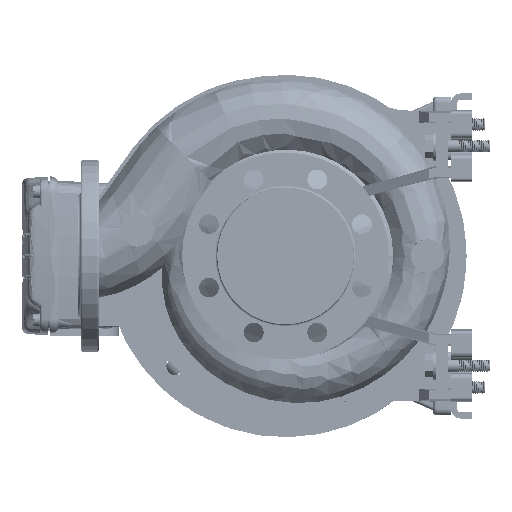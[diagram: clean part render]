
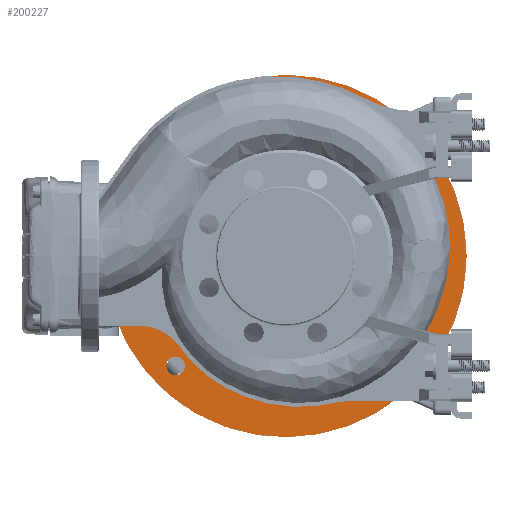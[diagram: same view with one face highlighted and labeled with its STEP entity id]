
A CAD part, left-side view. The second image highlights one B-rep face of the part: STEP entity #200227.
In plain terms, the highlighted planar face has unit normal (-1, 0, 0).
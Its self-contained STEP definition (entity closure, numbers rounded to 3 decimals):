
#4760 = CARTESIAN_POINT ( 'NONE',  ( 224., 0.031, -0.022 ) ) ;
#5004 = AXIS2_PLACEMENT_3D ( 'NONE', #157240, #92504, #206616 ) ;
#5613 = AXIS2_PLACEMENT_3D ( 'NONE', #64536, #214758, #179705 ) ;
#10422 = ORIENTED_EDGE ( 'NONE', *, *, #84478, .T. ) ;
#12768 = CARTESIAN_POINT ( 'NONE',  ( 224., 106.066, 115.067 ) ) ;
#13466 = AXIS2_PLACEMENT_3D ( 'NONE', #92391, #108870, #175747 ) ;
#15430 = EDGE_LOOP ( 'NONE', ( #212224, #97491 ) ) ;
#16487 = VERTEX_POINT ( 'NONE', #149818 ) ;
#16862 = CIRCLE ( 'NONE', #128868, 9. ) ;
#17907 = AXIS2_PLACEMENT_3D ( 'NONE', #24736, #91551, #161724 ) ;
#19178 = FACE_BOUND ( 'NONE', #29435, .T. ) ;
#20010 = CIRCLE ( 'NONE', #47996, 9. ) ;
#21181 = EDGE_CURVE ( 'NONE', #170151, #80973, #111231, .T. ) ;
#21329 = FACE_BOUND ( 'NONE', #90196, .T. ) ;
#22386 = PLANE ( 'NONE',  #23202 ) ;
#23202 = AXIS2_PLACEMENT_3D ( 'NONE', #89194, #203363, #85985 ) ;
#23972 = CARTESIAN_POINT ( 'NONE',  ( 224., 106.066, -97.112 ) ) ;
#24736 = CARTESIAN_POINT ( 'NONE',  ( 224., -106.004, 106.067 ) ) ;
#24990 = DIRECTION ( 'NONE',  ( 1., 0., 0. ) ) ;
#25860 = EDGE_CURVE ( 'NONE', #56917, #62869, #145681, .T. ) ;
#26553 = DIRECTION ( 'NONE',  ( 0., 0., -1. ) ) ;
#29435 = EDGE_LOOP ( 'NONE', ( #40457, #99636 ) ) ;
#32272 = DIRECTION ( 'NONE',  ( 1., 0., 0. ) ) ;
#34716 = CARTESIAN_POINT ( 'NONE',  ( 224., 0.031, -0.022 ) ) ;
#37768 = EDGE_CURVE ( 'NONE', #63405, #170151, #165872, .T. ) ;
#38044 = EDGE_LOOP ( 'NONE', ( #10422, #212792, #175659, #50491 ) ) ;
#38832 = FACE_OUTER_BOUND ( 'NONE', #15430, .T. ) ;
#40093 = EDGE_LOOP ( 'NONE', ( #169547, #126969 ) ) ;
#40457 = ORIENTED_EDGE ( 'NONE', *, *, #121848, .T. ) ;
#42681 = CARTESIAN_POINT ( 'NONE',  ( 224., 0.031, -175.022 ) ) ;
#44432 = VERTEX_POINT ( 'NONE', #148938 ) ;
#44877 = CIRCLE ( 'NONE', #13466, 175. ) ;
#46770 = CIRCLE ( 'NONE', #92255, 127.679 ) ;
#47996 = AXIS2_PLACEMENT_3D ( 'NONE', #109088, #175972, #108009 ) ;
#48809 = DIRECTION ( 'NONE',  ( 1., 0., 0. ) ) ;
#50491 = ORIENTED_EDGE ( 'NONE', *, *, #21181, .T. ) ;
#54393 = CIRCLE ( 'NONE', #5613, 9. ) ;
#56185 = DIRECTION ( 'NONE',  ( 0., 0., -1. ) ) ;
#56917 = VERTEX_POINT ( 'NONE', #42681 ) ;
#62869 = VERTEX_POINT ( 'NONE', #155219 ) ;
#63002 = AXIS2_PLACEMENT_3D ( 'NONE', #175650, #212904, #26553 ) ;
#63405 = VERTEX_POINT ( 'NONE', #68058 ) ;
#64536 = CARTESIAN_POINT ( 'NONE',  ( 224., 106.066, -106.112 ) ) ;
#66351 = DIRECTION ( 'NONE',  ( 0., 0., -1. ) ) ;
#66456 = CIRCLE ( 'NONE', #63002, 9. ) ;
#68058 = CARTESIAN_POINT ( 'NONE',  ( 224., 0.031, 127.657 ) ) ;
#68068 = CARTESIAN_POINT ( 'NONE',  ( 224., -106.004, 106.067 ) ) ;
#68984 = EDGE_CURVE ( 'NONE', #44432, #63405, #46770, .T. ) ;
#69903 = ORIENTED_EDGE ( 'NONE', *, *, #136741, .F. ) ;
#70765 = AXIS2_PLACEMENT_3D ( 'NONE', #4760, #187840, #56185 ) ;
#73156 = EDGE_CURVE ( 'NONE', #16487, #98414, #20010, .T. ) ;
#74711 = AXIS2_PLACEMENT_3D ( 'NONE', #175156, #24990, #158688 ) ;
#74770 = EDGE_LOOP ( 'NONE', ( #85446, #180618 ) ) ;
#76931 = VERTEX_POINT ( 'NONE', #23972 ) ;
#80973 = VERTEX_POINT ( 'NONE', #214164 ) ;
#84478 = EDGE_CURVE ( 'NONE', #80973, #44432, #137275, .T. ) ;
#85446 = ORIENTED_EDGE ( 'NONE', *, *, #128119, .F. ) ;
#85985 = DIRECTION ( 'NONE',  ( 0., 0., 1. ) ) ;
#86983 = DIRECTION ( 'NONE',  ( 0., 0., 1. ) ) ;
#88802 = CARTESIAN_POINT ( 'NONE',  ( 224., -106.004, 115.067 ) ) ;
#89194 = CARTESIAN_POINT ( 'NONE',  ( 224., 175.031, -0.022 ) ) ;
#90196 = EDGE_LOOP ( 'NONE', ( #69903, #105746 ) ) ;
#91551 = DIRECTION ( 'NONE',  ( -1., 0., 0. ) ) ;
#92255 = AXIS2_PLACEMENT_3D ( 'NONE', #165060, #48809, #66351 ) ;
#92391 = CARTESIAN_POINT ( 'NONE',  ( 224., 0.031, -0.022 ) ) ;
#92504 = DIRECTION ( 'NONE',  ( 1., 0., 0. ) ) ;
#92557 = CARTESIAN_POINT ( 'NONE',  ( 224., -106.004, 97.067 ) ) ;
#97491 = ORIENTED_EDGE ( 'NONE', *, *, #204567, .F. ) ;
#98414 = VERTEX_POINT ( 'NONE', #12768 ) ;
#99003 = VERTEX_POINT ( 'NONE', #150535 ) ;
#99636 = ORIENTED_EDGE ( 'NONE', *, *, #103608, .T. ) ;
#102035 = DIRECTION ( 'NONE',  ( -1., 0., 0. ) ) ;
#103190 = VERTEX_POINT ( 'NONE', #110315 ) ;
#103608 = EDGE_CURVE ( 'NONE', #124801, #103190, #173060, .T. ) ;
#104762 = DIRECTION ( 'NONE',  ( 0., 0., -1. ) ) ;
#105746 = ORIENTED_EDGE ( 'NONE', *, *, #192036, .F. ) ;
#108009 = DIRECTION ( 'NONE',  ( 0., 0., -1. ) ) ;
#108870 = DIRECTION ( 'NONE',  ( 1., 0., 0. ) ) ;
#109088 = CARTESIAN_POINT ( 'NONE',  ( 224., 106.066, 106.067 ) ) ;
#110315 = CARTESIAN_POINT ( 'NONE',  ( 224., -106.004, -97.112 ) ) ;
#111231 = CIRCLE ( 'NONE', #216283, 23.5 ) ;
#112399 = CIRCLE ( 'NONE', #17907, 9. ) ;
#116684 = DIRECTION ( 'NONE',  ( 0., 0., 1. ) ) ;
#121848 = EDGE_CURVE ( 'NONE', #103190, #124801, #127044, .T. ) ;
#124801 = VERTEX_POINT ( 'NONE', #160903 ) ;
#126969 = ORIENTED_EDGE ( 'NONE', *, *, #208964, .T. ) ;
#127044 = CIRCLE ( 'NONE', #172607, 9. ) ;
#128119 = EDGE_CURVE ( 'NONE', #76931, #99003, #54393, .T. ) ;
#128868 = AXIS2_PLACEMENT_3D ( 'NONE', #68068, #102035, #216126 ) ;
#136741 = EDGE_CURVE ( 'NONE', #185987, #186872, #112399, .T. ) ;
#137275 = CIRCLE ( 'NONE', #70765, 127.679 ) ;
#143738 = CARTESIAN_POINT ( 'NONE',  ( 224., -126.559, 16.619 ) ) ;
#145500 = DIRECTION ( 'NONE',  ( 1., 0., 0. ) ) ;
#145681 = CIRCLE ( 'NONE', #170265, 175. ) ;
#148728 = CARTESIAN_POINT ( 'NONE',  ( 224., -109.967, -0.022 ) ) ;
#148938 = CARTESIAN_POINT ( 'NONE',  ( 224., 0.031, -127.702 ) ) ;
#149818 = CARTESIAN_POINT ( 'NONE',  ( 224., 106.066, 97.067 ) ) ;
#150535 = CARTESIAN_POINT ( 'NONE',  ( 224., 106.066, -115.112 ) ) ;
#151812 = FACE_BOUND ( 'NONE', #74770, .T. ) ;
#155219 = CARTESIAN_POINT ( 'NONE',  ( 224., 0.031, 174.978 ) ) ;
#157240 = CARTESIAN_POINT ( 'NONE',  ( 224., -106.004, -106.112 ) ) ;
#158688 = DIRECTION ( 'NONE',  ( 0., 0., -1. ) ) ;
#160903 = CARTESIAN_POINT ( 'NONE',  ( 224., -106.004, -115.112 ) ) ;
#161724 = DIRECTION ( 'NONE',  ( 0., 0., -1. ) ) ;
#161975 = DIRECTION ( 'NONE',  ( 0., 0., 1. ) ) ;
#165060 = CARTESIAN_POINT ( 'NONE',  ( 224., 0.031, -0.022 ) ) ;
#165872 = CIRCLE ( 'NONE', #74711, 127.679 ) ;
#167150 = CARTESIAN_POINT ( 'NONE',  ( 224., 106.066, -106.112 ) ) ;
#168304 = FACE_BOUND ( 'NONE', #38044, .T. ) ;
#168465 = DIRECTION ( 'NONE',  ( 1., 0., 0. ) ) ;
#169547 = ORIENTED_EDGE ( 'NONE', *, *, #73156, .T. ) ;
#170151 = VERTEX_POINT ( 'NONE', #143738 ) ;
#170265 = AXIS2_PLACEMENT_3D ( 'NONE', #34716, #168465, #104762 ) ;
#172607 = AXIS2_PLACEMENT_3D ( 'NONE', #186787, #32272, #86983 ) ;
#173060 = CIRCLE ( 'NONE', #5004, 9. ) ;
#175156 = CARTESIAN_POINT ( 'NONE',  ( 224., 0.031, -0.022 ) ) ;
#175650 = CARTESIAN_POINT ( 'NONE',  ( 224., 106.066, 106.067 ) ) ;
#175659 = ORIENTED_EDGE ( 'NONE', *, *, #37768, .T. ) ;
#175747 = DIRECTION ( 'NONE',  ( 0., 0., -1. ) ) ;
#175972 = DIRECTION ( 'NONE',  ( 1., 0., 0. ) ) ;
#179705 = DIRECTION ( 'NONE',  ( 0., 0., 1. ) ) ;
#180618 = ORIENTED_EDGE ( 'NONE', *, *, #204317, .F. ) ;
#183580 = DIRECTION ( 'NONE',  ( -1., 0., 0. ) ) ;
#184970 = CIRCLE ( 'NONE', #191482, 9. ) ;
#185987 = VERTEX_POINT ( 'NONE', #92557 ) ;
#186787 = CARTESIAN_POINT ( 'NONE',  ( 224., -106.004, -106.112 ) ) ;
#186872 = VERTEX_POINT ( 'NONE', #88802 ) ;
#187840 = DIRECTION ( 'NONE',  ( 1., 0., 0. ) ) ;
#189037 = FACE_BOUND ( 'NONE', #40093, .T. ) ;
#191482 = AXIS2_PLACEMENT_3D ( 'NONE', #167150, #183580, #116684 ) ;
#192036 = EDGE_CURVE ( 'NONE', #186872, #185987, #16862, .T. ) ;
#200227 = ADVANCED_FACE ( 'NONE', ( #189037, #21329, #38832, #151812, #19178, #168304 ), #22386, .T. ) ;
#203363 = DIRECTION ( 'NONE',  ( -1., 0., 0. ) ) ;
#204317 = EDGE_CURVE ( 'NONE', #99003, #76931, #184970, .T. ) ;
#204567 = EDGE_CURVE ( 'NONE', #62869, #56917, #44877, .T. ) ;
#206616 = DIRECTION ( 'NONE',  ( 0., 0., 1. ) ) ;
#208964 = EDGE_CURVE ( 'NONE', #98414, #16487, #66456, .T. ) ;
#212224 = ORIENTED_EDGE ( 'NONE', *, *, #25860, .F. ) ;
#212792 = ORIENTED_EDGE ( 'NONE', *, *, #68984, .T. ) ;
#212904 = DIRECTION ( 'NONE',  ( 1., 0., 0. ) ) ;
#214164 = CARTESIAN_POINT ( 'NONE',  ( 224., -126.559, -16.664 ) ) ;
#214758 = DIRECTION ( 'NONE',  ( -1., 0., 0. ) ) ;
#216126 = DIRECTION ( 'NONE',  ( 0., 0., -1. ) ) ;
#216283 = AXIS2_PLACEMENT_3D ( 'NONE', #148728, #145500, #161975 ) ;
